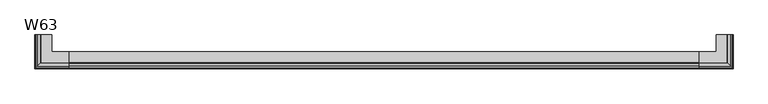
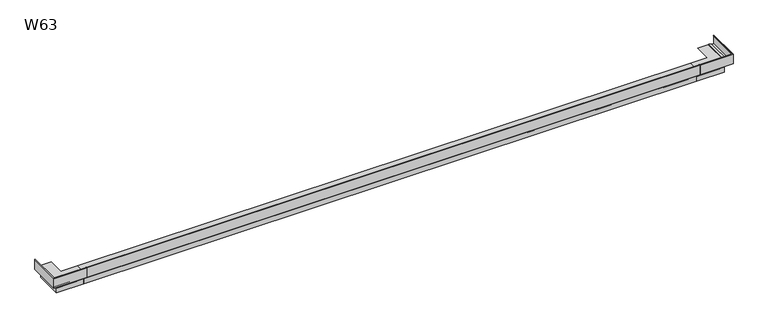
"""IFC4 building model written with IfcOpenShell, lengths in millimetres: proxy geometry, W63 Profil okapowy prosty : W63."""

import ifcopenshell
import ifcopenshell.guid

model = None  # the IFC model being written
_history = None  # IfcOwnerHistory: only IFC2X3 demands one
_inside = {}  # id of a spatial element -> (the spatial element, [elements in it])
_under = {}  # id of a project, library or spatial element -> (it, [spatial elements below it])
_declared = {}  # id of a project -> (the project, [libraries it declares])
_typed = {}  # id of a type object -> (the type object, [elements of that type])
_made_of = {}  # id of a material, layer set ... -> (it, [elements and type objects made of it])


def new_model(schema):
    """Start an empty IFC model of exactly this schema.

    Asked for "IFC4X3", IfcOpenShell would pick the latest addendum, in which some entities
    have other attributes; the version numbers below select the first issue.
    IFC2X3 requires an IfcOwnerHistory on every rooted entity: one is made here for all.
    """
    global model, _history
    if schema == "IFC4X3":
        model = ifcopenshell.file(schema_version=(4, 3, 0, 0))
    else:
        model = ifcopenshell.file(schema=schema)
    _inside.clear()
    _under.clear()
    _declared.clear()
    _typed.clear()
    _made_of.clear()
    _history = None
    if model.schema == "IFC2X3":
        org = make("IfcOrganization", Name="unknown")
        user = make(
            "IfcPersonAndOrganization",
            ThePerson=make("IfcPerson", FamilyName="unknown"),
            TheOrganization=org,
        )
        app = make(
            "IfcApplication",
            ApplicationDeveloper=org,
            Version="unknown",
            ApplicationFullName="unknown",
            ApplicationIdentifier="unknown",
        )
        _history = make(
            "IfcOwnerHistory",
            OwningUser=user,
            OwningApplication=app,
            ChangeAction="ADDED",
            CreationDate=0,
        )
    return model


def make(cls, **values):
    """One entity of the class cls with the attributes given. An attribute that is None is left unset."""
    return model.create_entity(
        cls, **{name: value for name, value in values.items() if value is not None}
    )


def rooted(cls, **values):
    """An entity with a GlobalId (a new one), such as an element, a storey or a relation."""
    return make(cls, GlobalId=ifcopenshell.guid.new(), OwnerHistory=_history, **values)


def si_unit(unit_type, name, prefix=None):
    """IfcSIUnit, for example si_unit("LENGTHUNIT", "METRE", prefix="MILLI")."""
    return make("IfcSIUnit", UnitType=unit_type, Prefix=prefix, Name=name)


def assignment(units):
    """IfcUnitAssignment: the units of a project."""
    return None if units is None else make("IfcUnitAssignment", Units=units)


def point(xyz):
    """IfcCartesianPoint."""
    return None if xyz is None else make("IfcCartesianPoint", Coordinates=xyz)


def direction(xyz):
    """IfcDirection."""
    return None if xyz is None else make("IfcDirection", DirectionRatios=xyz)


def frame(location, z_axis=None, x_axis=None):
    """IfcAxis2Placement3D, a coordinate frame: its origin and axes. An axis left out is left unset."""
    return make(
        "IfcAxis2Placement3D",
        Location=point(location),
        Axis=direction(z_axis),
        RefDirection=direction(x_axis),
    )


def frame_2d(location, x_axis=None):
    """IfcAxis2Placement2D, a coordinate frame in the plane: its origin and x axis."""
    return make(
        "IfcAxis2Placement2D", Location=point(location), RefDirection=direction(x_axis)
    )


def origin():
    """The frame at (0, 0, 0) with its axes left unset."""
    return frame((0.0, 0.0, 0.0))


def place(relative_to, where):
    """IfcLocalPlacement: puts the frame where relative to a parent placement (None: the world)."""
    return make(
        "IfcLocalPlacement", PlacementRelTo=relative_to, RelativePlacement=where
    )


def context(
    kind, dimensions, precision=None, world=None, true_north=None, identifier=None
):
    """IfcGeometricRepresentationContext, for example the 3D "Model" context."""
    return make(
        "IfcGeometricRepresentationContext",
        ContextIdentifier=identifier,
        ContextType=kind,
        CoordinateSpaceDimension=dimensions,
        Precision=precision,
        WorldCoordinateSystem=world,
        TrueNorth=true_north,
    )


def project(units=None, contexts=None):
    """IfcProject with its units and contexts."""
    return rooted(
        "IfcProject",
        Name="project",
        RepresentationContexts=contexts,
        UnitsInContext=assignment(units),
    )


def spatial(cls, under=None, at=None, **own):
    """A site, building, storey or space (cls), placed at a placement, below another one or the project."""
    s = rooted(cls, ObjectPlacement=at, **own)
    if under is not None:
        _under.setdefault(under.id(), (under, []))[1].append(s)
    return s


def polyline(points):
    """IfcPolyline through the points."""
    return make("IfcPolyline", Points=[point(p) for p in points])


def circle_curve(where, radius):
    """IfcCircle in the frame where."""
    return make("IfcCircle", Position=where, Radius=radius)


def ellipse_curve(where, semi_axis1, semi_axis2):
    """IfcEllipse in the frame where."""
    return make(
        "IfcEllipse", Position=where, SemiAxis1=semi_axis1, SemiAxis2=semi_axis2
    )


def trimmed(basis, trim1, trim2, sense, master):
    """IfcTrimmedCurve: the piece of a basis curve between two trims."""
    return make(
        "IfcTrimmedCurve",
        BasisCurve=basis,
        Trim1=trim1,
        Trim2=trim2,
        SenseAgreement=sense,
        MasterRepresentation=master,
    )


def segment(curve, same_sense, transition):
    """IfcCompositeCurveSegment."""
    return make(
        "IfcCompositeCurveSegment",
        Transition=transition,
        SameSense=same_sense,
        ParentCurve=curve,
    )


def composite_curve(segments, self_intersect=None):
    """IfcCompositeCurve: segments joined end to end."""
    return make("IfcCompositeCurve", Segments=segments, SelfIntersect=self_intersect)


def outline(outer, holes=None, kind="AREA"):
    """IfcArbitraryClosedProfileDef: a profile drawn as a closed curve; with holes, ...WithVoids."""
    if holes is None:
        return make("IfcArbitraryClosedProfileDef", ProfileType=kind, OuterCurve=outer)
    return make(
        "IfcArbitraryProfileDefWithVoids",
        ProfileType=kind,
        OuterCurve=outer,
        InnerCurves=holes,
    )


def extrude(swept, where, along, depth):
    """IfcExtrudedAreaSolid: the profile swept, set in the frame where, extruded along a direction by depth."""
    return make(
        "IfcExtrudedAreaSolid",
        SweptArea=swept,
        Position=where,
        ExtrudedDirection=direction(along),
        Depth=depth,
    )


def shape(context_of_items, identifier, shape_type, items):
    """IfcShapeRepresentation: the items that make up one representation, for example the "Body"."""
    return make(
        "IfcShapeRepresentation",
        ContextOfItems=context_of_items,
        RepresentationIdentifier=identifier,
        RepresentationType=shape_type,
        Items=items,
    )


def source(mapping_origin, context_of_items, identifier, shape_type, items):
    """IfcRepresentationMap: a shape defined once, which mapped items show again and again."""
    return make(
        "IfcRepresentationMap",
        MappingOrigin=mapping_origin,
        MappedRepresentation=shape(context_of_items, identifier, shape_type, items),
    )


def transform(
    local_origin,
    x_axis=None,
    y_axis=None,
    z_axis=None,
    scale=None,
    scale2=None,
    scale3=None,
    uniform=True,
):
    """IfcCartesianTransformationOperator3D, or its non-uniform kind. x_axis, y_axis, z_axis: its Axis1, 2, 3."""
    if uniform:
        return make(
            "IfcCartesianTransformationOperator3D",
            Axis1=direction(x_axis),
            Axis2=direction(y_axis),
            LocalOrigin=point(local_origin),
            Scale=scale,
            Axis3=direction(z_axis),
        )
    return make(
        "IfcCartesianTransformationOperator3DnonUniform",
        Axis1=direction(x_axis),
        Axis2=direction(y_axis),
        LocalOrigin=point(local_origin),
        Scale=scale,
        Axis3=direction(z_axis),
        Scale2=scale2,
        Scale3=scale3,
    )


def mapped(mapping_source, mapping_target):
    """IfcMappedItem: shows the shape of a source again, moved by a transform."""
    return make(
        "IfcMappedItem", MappingSource=mapping_source, MappingTarget=mapping_target
    )


def made_of(thing, what):
    """Note that an element or type object is made of a material, layer set ...; save() writes the relation."""
    if what is not None:
        _made_of.setdefault(what.id(), (what, []))[1].append(thing)
    return thing


def element(
    cls,
    number,
    at=None,
    inside=None,
    cuts=None,
    type_object=None,
    material=None,
    context=None,
    identifier="Body",
    shape_type=None,
    held_by="IfcProductDefinitionShape",
    body=None,
    shapes=None,
    **own,
):
    """One element of the class cls, such as IfcWall. Its Tag is "e" and its number.

    at: its placement. inside: the storey or other place that contains it. cuts: it is an
    opening in that element (IfcRelVoidsElement). A single representation is given by context,
    identifier, shape_type and body (its items); several are given by shapes. held_by: the class
    of the entity that holds the representations. save() writes the other relations.
    """
    e = rooted(cls, Tag="e%d" % number, ObjectPlacement=at, **own)
    if body is not None:
        shapes = [shape(context, identifier, shape_type, body)]
    if shapes is not None:
        e.Representation = make(held_by, Representations=shapes)
    if inside is not None:
        _inside.setdefault(inside.id(), (inside, []))[1].append(e)
    if cuts is not None:
        rooted(
            "IfcRelVoidsElement", RelatingBuildingElement=cuts, RelatedOpeningElement=e
        )
    if type_object is not None:
        _typed.setdefault(type_object.id(), (type_object, []))[1].append(e)
    return made_of(e, material)


def aggregate(whole, parts):
    """IfcRelAggregates: a whole, such as a stair, and the parts it consists of."""
    return rooted("IfcRelAggregates", RelatingObject=whole, RelatedObjects=parts)


def save(model, path):
    """Write the relations noted so far, then the file.

    IfcRelAggregates (storeys below a building ...), IfcRelContainedInSpatialStructure (elements
    in a storey), IfcRelDefinesByType, IfcRelAssociatesMaterial and IfcRelDeclares: one each for
    every whole, place, type object, material and project.
    """
    for whole, parts in _under.values():
        aggregate(whole, parts)
    for where, things in _inside.values():
        rooted(
            "IfcRelContainedInSpatialStructure",
            RelatedElements=things,
            RelatingStructure=where,
        )
    for kind, things in _typed.values():
        rooted("IfcRelDefinesByType", RelatedObjects=things, RelatingType=kind)
    for what, things in _made_of.values():
        rooted("IfcRelAssociatesMaterial", RelatedObjects=things, RelatingMaterial=what)
    for by, libraries in _declared.values():
        rooted("IfcRelDeclares", RelatingContext=by, RelatedDefinitions=libraries)
    model.write(path)


def plane_surface(at):
    """IfcPlane: the flat surface through the origin of the frame at, square to its z axis."""
    return make("IfcPlane", Position=at)


def cylinder_surface(at, radius):
    """IfcCylindricalSurface: all points at the distance radius from the z axis of the frame at."""
    return make("IfcCylindricalSurface", Position=at, Radius=radius)


def revolved_surface(curve, axis_point, axis_direction):
    """IfcSurfaceOfRevolution: the curve turned about the line through axis_point along axis_direction."""
    return make(
        "IfcSurfaceOfRevolution",
        SweptCurve=make("IfcArbitraryOpenProfileDef", ProfileType="CURVE", Curve=curve),
        AxisPosition=make("IfcAxis1Placement", Location=point(axis_point), Axis=direction(axis_direction)),
    )


def advanced_brep(points, edges, surfaces, faces):
    """IfcAdvancedBrep: a solid bounded by faces that lie on surfaces and meet in shared edges.

    An edge is (start, end): straight between two places in points (the first is 0);
    or (start, end, curve); or (start, end, curve, False) where it runs against its curve.
    A face is (place in surfaces, loops), or (place, loops, False) where it looks against
    its surface's normal. A loop lists edges by number (the first is 1), with a minus sign
    where the edge is run from its end to its start. The first loop is the outer one.
    """
    corners = [point(p) for p in points]
    vertices = [make("IfcVertexPoint", VertexGeometry=c) for c in corners]
    made = []
    for start, end, *more in edges:
        made.append(
            make(
                "IfcEdgeCurve",
                EdgeStart=vertices[start],
                EdgeEnd=vertices[end],
                EdgeGeometry=more[0] if more else make("IfcPolyline", Points=[corners[start], corners[end]]),
                SameSense=more[1] if len(more) > 1 else True,
            )
        )
    hull = []
    for where, loops, *sense in faces:
        bounds = []
        for j, loop in enumerate(loops):
            ring = [make("IfcOrientedEdge", EdgeElement=made[abs(k) - 1], Orientation=k > 0) for k in loop]
            bounds.append(
                make(
                    "IfcFaceOuterBound" if j == 0 else "IfcFaceBound",
                    Bound=make("IfcEdgeLoop", EdgeList=ring),
                    Orientation=True,
                )
            )
        hull.append(make("IfcAdvancedFace", Bounds=bounds, FaceSurface=surfaces[where], SameSense=sense[0] if sense else True))
    return make("IfcAdvancedBrep", Outer=make("IfcClosedShell", CfsFaces=hull))


def w63_5dd79a54(model_context):
    return source(origin(), model_context, "Body", "SolidModel", [
        advanced_brep(
        [(4926.0, -12.814071, -0.610591), (4926.0, -7.9099076, 0.0), (4926.0, 72.7447545, 0.0), (4926.0, 72.7447545, -1.8), (4926.0, -8.6, -1.8), (4926.0, -8.6, -49.3), (4926.0, 0.0, -49.3), (4926.0, 0.0, -62.7), (4926.0, -8.7, -62.7), (4926.0, -8.7, -96.8), (4926.0, -10.4, -96.8), (4926.0, -10.4, -58.5), (4926.0, -8.2, -58.5), (4926.0, -8.2, -60.9), (4926.0, -1.7, -60.9), (4926.0, -1.7, -51.1), (4926.0, -8.2, -51.1), (4926.0, -8.2, -53.5), (4926.0, -10.4, -53.5), (4926.0, -10.4, -1.9598328), (4926.0, -35.8680749, -8.4014734), (4926.0, -37.3, -8.4014734), (4926.0, -37.3, -9.6220163), (4926.0, -38.5, -10.7671837), (4926.0, -38.5, -8.4014734), (4926.0, -52.5, -8.4014734), (4926.0, -52.5, -18.605576), (4926.0, -54.0, -19.8427552), (4926.0, -54.0, 60.2083042), (4926.0, -51.5, 63.0441043), (4926.0, -51.5, 61.2083042), (4926.0, -52.5, 60.2083042), (4926.0, -52.5, 57.2983042), (4926.0, -49.5, 57.2983042), (4926.0, -49.5, 55.7983042), (4926.0, -52.2, 55.7983042), (4926.0, -52.2, -6.6014734), (4926.0, -36.5, -6.6014734), (5138.814071, 200.0, -0.610591), (5162.5, 200.0, -6.6014734), (5178.2, 200.0, -6.6014734), (5178.2, 200.0, 55.7983042), (5175.5, 200.0, 55.7983042), (5175.5, 200.0, 57.2983042), (5178.5, 200.0, 57.2983042), (5178.5, 200.0, 60.2083042), (5177.5, 200.0, 61.2083042), (5177.5, 200.0, 63.0441043), (5180.0, 200.0, 60.2083042), (5180.0, 200.0, -19.8427552), (5178.5, 200.0, -18.605576), (5178.5, 200.0, -8.4014734), (5164.5, 200.0, -8.4014734), (5164.5, 200.0, -10.7671837), (5163.3, 200.0, -9.6220163), (5163.3, 200.0, -8.4014734), (5161.8680749, 200.0, -8.4014734), (5136.4, 200.0, -1.9598328), (5136.4, 200.0, -53.5), (5134.2, 200.0, -53.5), (5134.2, 200.0, -51.1), (5127.7, 200.0, -51.1), (5127.7, 200.0, -60.9), (5134.2, 200.0, -60.9), (5134.2, 200.0, -58.5), (5136.4, 200.0, -58.5), (5136.4, 200.0, -96.8), (5134.7, 200.0, -96.8), (5134.7, 200.0, -62.7), (5126.0, 200.0, -62.7), (5126.0, 200.0, -49.3), (5134.6, 200.0, -49.3), (5134.6, 200.0, -1.8), (5053.2552455, 200.0, -1.8), (5053.2552455, 200.0, 0.0), (5133.9099076, 200.0, 0.0), (5162.5, -36.5, -6.6014734), (5138.814071, -12.814071, -0.610591), (5178.2, -52.2, -6.6014734), (5178.2, -52.2, 55.7983042), (5175.5, -49.5, 55.7983042), (5175.5, -49.5, 57.2983042), (5178.5, -52.5, 57.2983042), (5178.5, -52.5, 60.2083042), (5177.5, -51.5, 61.2083042), (5177.5, -51.5, 63.0441043), (5180.0, -54.0, 60.2083042), (5180.0, -54.0, -19.8427552), (5178.5, -52.5, -18.605576), (5178.5, -52.5, -8.4014734), (5164.5, -38.5, -8.4014734), (5164.5, -38.5, -10.7671837), (5163.3, -37.3, -9.6220163), (5163.3, -37.3, -8.4014734), (5161.8680749, -35.8680749, -8.4014734), (5136.4, -10.4, -1.9598328), (5136.4, -10.4, -53.5), (5134.2, -8.2, -53.5), (5134.2, -8.2, -51.1), (5127.7, -1.7, -51.1), (5127.7, -1.7, -60.9), (5134.2, -8.2, -60.9), (5134.2, -8.2, -58.5), (5136.4, -10.4, -58.5), (5136.4, -10.4, -96.8), (5134.7, -8.7, -96.8), (5134.7, -8.7, -62.7), (5126.0, 0.0, -62.7), (5126.0, 0.0, -49.3), (5134.6, -8.6, -49.3), (5134.6, -8.6, -1.8), (5053.2552455, 72.7447545, -1.8), (5053.2552455, 72.7447545, 0.0), (5133.9099076, -7.9099076, 0.0)],
        [
            (0, 1, circle_curve(frame((4926.0, -7.9099076, -20.0), z_axis=(-1.0, 0.0, 0.0), x_axis=(0.0, 0.0, 1.0)), 20.0)),
            (1, 2),
            (2, 3),
            (3, 4),
            (4, 5),
            (5, 6),
            (6, 7),
            (7, 8),
            (8, 9),
            (9, 10),
            (10, 11),
            (11, 12),
            (12, 13),
            (13, 14),
            (14, 15),
            (15, 16),
            (16, 17),
            (17, 18),
            (18, 19),
            (19, 20),
            (20, 21),
            (21, 22),
            (22, 23),
            (23, 24),
            (24, 25),
            (25, 26),
            (26, 27),
            (27, 28),
            (28, 29, circle_curve(frame((4926.0, -51.0901385, 60.1628945), z_axis=(-1.0, 0.0, 0.0), x_axis=(0.0, -0.23601815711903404, 0.9717486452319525)), 2.9102158)),
            (29, 30),
            (30, 31, circle_curve(frame((4926.0, -51.5, 60.2083042), z_axis=(1.0, 0.0, 0.0), x_axis=(0.0, -1.0, 0.0)), 1.0)),
            (31, 32),
            (32, 33),
            (33, 34),
            (34, 35),
            (35, 36),
            (36, 37),
            (37, 0),
            (38, 39),
            (39, 40),
            (40, 41),
            (41, 42),
            (42, 43),
            (43, 44),
            (44, 45),
            (45, 46, circle_curve(frame((5177.5, 200.0, 60.2083042), z_axis=(0.0, -1.0, 0.0), x_axis=(1.0, 0.0, 0.0)), 1.0)),
            (46, 47),
            (47, 48, circle_curve(frame((5177.0901385, 200.0, 60.1628945), z_axis=(0.0, 1.0, 0.0), x_axis=(0.23601815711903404, 0.0, 0.9717486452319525)), 2.9102158)),
            (48, 49),
            (49, 50),
            (50, 51),
            (51, 52),
            (52, 53),
            (53, 54),
            (54, 55),
            (55, 56),
            (56, 57),
            (57, 58),
            (58, 59),
            (59, 60),
            (60, 61),
            (61, 62),
            (62, 63),
            (63, 64),
            (64, 65),
            (65, 66),
            (66, 67),
            (67, 68),
            (68, 69),
            (69, 70),
            (70, 71),
            (71, 72),
            (72, 73),
            (73, 74),
            (74, 75),
            (75, 38, circle_curve(frame((5133.9099076, 200.0, -20.0), z_axis=(0.0, 1.0, 0.0), x_axis=(0.0, 0.0, 1.0)), 20.0)),
            (37, 76),
            (76, 77),
            (77, 0),
            (36, 78),
            (78, 40),
            (39, 76),
            (35, 79),
            (79, 78),
            (34, 80),
            (80, 42),
            (41, 79),
            (33, 81),
            (81, 80),
            (32, 82),
            (82, 44),
            (43, 81),
            (31, 83),
            (83, 82),
            (30, 84),
            (84, 83, ellipse_curve(frame((5177.5, -51.5, 60.2083042), z_axis=(0.7071067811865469, 0.707106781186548, 0.0), x_axis=(0.7071067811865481, -0.7071067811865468, 0.0)), 1.4142136, 1.0)),
            (29, 85),
            (85, 84),
            (28, 86),
            (86, 85, ellipse_curve(frame((5177.0901385, -51.0901385, 60.1628945), z_axis=(-0.7071067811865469, -0.707106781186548, 0.0), x_axis=(-0.7071067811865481, 0.7071067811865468, 0.0)), 4.1156667, 2.9102158)),
            (27, 87),
            (87, 86),
            (26, 88),
            (88, 87),
            (25, 89),
            (89, 88),
            (24, 90),
            (90, 52),
            (51, 89),
            (23, 91),
            (91, 90),
            (22, 92),
            (92, 91),
            (21, 93),
            (93, 92),
            (20, 94),
            (94, 56),
            (55, 93),
            (19, 95),
            (95, 94),
            (18, 96),
            (96, 95),
            (17, 97),
            (97, 59),
            (58, 96),
            (16, 98),
            (98, 97),
            (15, 99),
            (99, 61),
            (60, 98),
            (14, 100),
            (100, 99),
            (13, 101),
            (101, 63),
            (62, 100),
            (12, 102),
            (102, 101),
            (11, 103),
            (103, 65),
            (64, 102),
            (10, 104),
            (104, 103),
            (9, 105),
            (105, 67),
            (66, 104),
            (8, 106),
            (106, 105),
            (7, 107),
            (107, 69),
            (68, 106),
            (6, 108),
            (108, 107),
            (5, 109),
            (109, 71),
            (70, 108),
            (4, 110),
            (110, 109),
            (3, 111),
            (111, 73),
            (72, 110),
            (2, 112),
            (112, 111),
            (1, 113),
            (113, 75),
            (74, 112),
            (77, 113, ellipse_curve(frame((5133.9099076, -7.9099076, -20.0), z_axis=(-0.7071067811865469, -0.707106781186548, 0.0), x_axis=(-0.7071067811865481, 0.7071067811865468, 0.0)), 28.2842712, 20.0)),
            (38, 77),
            (83, 45),
            (84, 46),
            (85, 47),
            (86, 48),
            (87, 49),
            (88, 50),
            (91, 53),
            (92, 54),
            (95, 57),
        ],
        [
            plane_surface(frame((4926.0, 0.0, 0.0), z_axis=(-1.0, 0.0, 0.0), x_axis=(0.0, 0.0, 1.0))),
            plane_surface(frame((5126.0, 200.0, 0.0), z_axis=(0.0, 1.0, 0.0), x_axis=(0.0, 0.0, 1.0))),
            plane_surface(frame((4926.0, -12.814071, -0.610591), z_axis=(0.0, -0.24520817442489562, 0.9694704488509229), x_axis=(1.0, 0.0, 0.0))),
            plane_surface(frame((4926.0, -36.5, -6.6014734), z_axis=(0.0, 0.0, 1.0), x_axis=(1.0, 0.0, 0.0))),
            plane_surface(frame((4926.0, -52.2, -6.6014734), z_axis=(0.0, 1.0, 0.0), x_axis=(1.0, 0.0, 0.0))),
            plane_surface(frame((4926.0, -52.2, 55.7983042), z_axis=(0.0, 0.0, -1.0), x_axis=(1.0, 0.0, 0.0))),
            plane_surface(frame((4926.0, -49.5, 55.7983042), z_axis=(0.0, 1.0, 0.0), x_axis=(1.0, 0.0, 0.0))),
            plane_surface(frame((4926.0, -49.5, 57.2983042), z_axis=(0.0, 0.0, 1.0), x_axis=(1.0, 0.0, 0.0))),
            plane_surface(frame((4926.0, -52.5, 57.2983042), z_axis=(0.0, 1.0, 0.0), x_axis=(1.0, 0.0, 0.0))),
            revolved_surface(polyline([(5178.500000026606, -52.5, 60.2083042), (4926.0, -52.5, 60.2083042)]), (4926.0, -51.5, 60.2083042), (1.0, 0.0, 0.0)),
            plane_surface(frame((4926.0, -51.5, 61.2083042), z_axis=(0.0, 1.0, 0.0), x_axis=(1.0, 0.0, 0.0))),
            cylinder_surface(frame((4926.0, -51.0901385, 60.1628945), z_axis=(-1.0, 0.0, 0.0), x_axis=(0.0, -0.23601815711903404, 0.9717486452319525)), 2.9102158),
            plane_surface(frame((4926.0, -54.0, 60.2083042), z_axis=(0.0, -1.0, 0.0), x_axis=(1.0, 0.0, 0.0))),
            plane_surface(frame((4926.0, -54.0, -19.8427552), z_axis=(0.0, 0.6362847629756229, -0.7714542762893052), x_axis=(1.0, 0.0, 0.0))),
            plane_surface(frame((4926.0, -52.5, -18.605576), z_axis=(0.0, 1.0, 0.0), x_axis=(1.0, 0.0, 0.0))),
            plane_surface(frame((4926.0, -52.5, -8.4014734), z_axis=(0.0, 0.0, -1.0), x_axis=(1.0, 0.0, 0.0))),
            plane_surface(frame((4926.0, -38.5, -8.4014734), z_axis=(0.0, -1.0, 0.0), x_axis=(1.0, 0.0, 0.0))),
            plane_surface(frame((4926.0, -38.5, -10.7671837), z_axis=(0.0, 0.6903851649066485, -0.7234419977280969), x_axis=(1.0, 0.0, 0.0))),
            plane_surface(frame((4926.0, -37.3, -9.6220163), z_axis=(0.0, 1.0, -1.8471806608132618e-12), x_axis=(1.0, 0.0, 0.0))),
            plane_surface(frame((4926.0, -37.3, -8.4014734), z_axis=(0.0, 0.0, -1.0), x_axis=(1.0, 0.0, 0.0))),
            plane_surface(frame((4926.0, -35.8680749, -8.4014734), z_axis=(0.0, 0.24520817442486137, -0.9694704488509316), x_axis=(1.0, 0.0, 0.0))),
            plane_surface(frame((4926.0, -10.4, -1.9598328), z_axis=(0.0, -1.0, 0.0), x_axis=(1.0, 0.0, 0.0))),
            plane_surface(frame((4926.0, -10.4, -53.5), z_axis=(0.0, 0.0, -1.0), x_axis=(1.0, 0.0, 0.0))),
            plane_surface(frame((4926.0, -8.2, -53.5), z_axis=(0.0, 1.0, 0.0), x_axis=(1.0, 0.0, 0.0))),
            plane_surface(frame((4926.0, -8.2, -51.1), z_axis=(0.0, 0.0, -1.0), x_axis=(1.0, 0.0, 0.0))),
            plane_surface(frame((4926.0, -1.7, -51.1), z_axis=(0.0, -1.0, 0.0), x_axis=(1.0, 0.0, 0.0))),
            plane_surface(frame((4926.0, -1.7, -60.9), z_axis=(0.0, 0.0, 1.0), x_axis=(1.0, 0.0, 0.0))),
            plane_surface(frame((4926.0, -8.2, -60.9), z_axis=(0.0, 1.0, 0.0), x_axis=(1.0, 0.0, 0.0))),
            plane_surface(frame((4926.0, -8.2, -58.5), z_axis=(0.0, 0.0, 1.0), x_axis=(1.0, 0.0, 0.0))),
            plane_surface(frame((4926.0, -10.4, -58.5), z_axis=(0.0, -1.0, 0.0), x_axis=(1.0, 0.0, 0.0))),
            plane_surface(frame((4926.0, -10.4, -96.8), z_axis=(0.0, 0.0, -1.0), x_axis=(1.0, 0.0, 0.0))),
            plane_surface(frame((4926.0, -8.7, -96.8), z_axis=(0.0, 1.0, 0.0), x_axis=(1.0, 0.0, 0.0))),
            plane_surface(frame((4926.0, -8.7, -62.7), z_axis=(0.0, 0.0, -1.0), x_axis=(1.0, 0.0, 0.0))),
            plane_surface(frame((4926.0, 0.0, -62.7), z_axis=(0.0, 1.0, 0.0), x_axis=(1.0, 0.0, 0.0))),
            plane_surface(frame((4926.0, 0.0, -49.3), z_axis=(0.0, 0.0, 1.0), x_axis=(1.0, 0.0, 0.0))),
            plane_surface(frame((4926.0, -8.6, -49.3), z_axis=(0.0, 1.0, 0.0), x_axis=(1.0, 0.0, 0.0))),
            plane_surface(frame((4926.0, -8.6, -1.8), z_axis=(0.0, 0.0, -1.0), x_axis=(1.0, 0.0, 0.0))),
            plane_surface(frame((4926.0, 72.7447545, -1.8), z_axis=(0.0, 1.0, 0.0), x_axis=(1.0, 0.0, 0.0))),
            plane_surface(frame((4926.0, 72.7447545, 0.0), z_axis=(0.0, 0.0, 1.0), x_axis=(1.0, 0.0, 0.0))),
            cylinder_surface(frame((4926.0, -7.9099076, -20.0), z_axis=(-1.0, 0.0, 0.0), x_axis=(0.0, 0.0, 1.0)), 20.0),
            plane_surface(frame((5138.814071, -12.814071, -0.610591), z_axis=(0.24520817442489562, 0.0, 0.9694704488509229), x_axis=(0.0, 1.0, 0.0))),
            plane_surface(frame((5178.2, -52.2, -6.6014734), z_axis=(-1.0, 0.0, 0.0), x_axis=(0.0, 1.0, 0.0))),
            plane_surface(frame((5175.5, -49.5, 55.7983042), z_axis=(-1.0, 0.0, 0.0), x_axis=(0.0, 1.0, 0.0))),
            plane_surface(frame((5178.5, -52.5, 57.2983042), z_axis=(-1.0, 0.0, 0.0), x_axis=(0.0, 1.0, 0.0))),
            revolved_surface(polyline([(5178.5, 200.0, 60.2083042), (5178.5, -52.50000002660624, 60.2083042)]), (5177.5, 0.0, 60.2083042), (0.0, 1.0, 0.0)),
            plane_surface(frame((5177.5, -51.5, 61.2083042), z_axis=(-1.0, 0.0, 0.0), x_axis=(0.0, 1.0, 0.0))),
            cylinder_surface(frame((5177.0901385, 0.0, 60.1628945), z_axis=(0.0, -1.0, 0.0), x_axis=(0.23601815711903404, 0.0, 0.9717486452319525)), 2.9102158),
            plane_surface(frame((5180.0, -54.0, 60.2083042), z_axis=(1.0, 0.0, 0.0), x_axis=(0.0, 1.0, 0.0))),
            plane_surface(frame((5180.0, -54.0, -19.8427552), z_axis=(-0.6362847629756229, 0.0, -0.7714542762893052), x_axis=(0.0, 1.0, 0.0))),
            plane_surface(frame((5178.5, -52.5, -18.605576), z_axis=(-1.0, 0.0, 0.0), x_axis=(0.0, 1.0, 0.0))),
            plane_surface(frame((5164.5, -38.5, -8.4014734), z_axis=(1.0, 0.0, 0.0), x_axis=(0.0, 1.0, 0.0))),
            plane_surface(frame((5164.5, -38.5, -10.7671837), z_axis=(-0.6903851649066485, 0.0, -0.7234419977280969), x_axis=(0.0, 1.0, 0.0))),
            plane_surface(frame((5163.3, -37.3, -9.6220163), z_axis=(-1.0, 0.0, -1.8471806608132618e-12), x_axis=(0.0, 1.0, 0.0))),
            plane_surface(frame((5161.8680749, -35.8680749, -8.4014734), z_axis=(-0.24520817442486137, 0.0, -0.9694704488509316), x_axis=(0.0, 1.0, 0.0))),
            plane_surface(frame((5136.4, -10.4, -1.9598328), z_axis=(1.0, 0.0, 0.0), x_axis=(0.0, 1.0, 0.0))),
            plane_surface(frame((5134.2, -8.2, -53.5), z_axis=(-1.0, 0.0, 0.0), x_axis=(0.0, 1.0, 0.0))),
            plane_surface(frame((5127.7, -1.7, -51.1), z_axis=(1.0, 0.0, 0.0), x_axis=(0.0, 1.0, 0.0))),
            plane_surface(frame((5134.2, -8.2, -60.9), z_axis=(-1.0, 0.0, 0.0), x_axis=(0.0, 1.0, 0.0))),
            plane_surface(frame((5136.4, -10.4, -58.5), z_axis=(1.0, 0.0, 0.0), x_axis=(0.0, 1.0, 0.0))),
            plane_surface(frame((5134.7, -8.7, -96.8), z_axis=(-1.0, 0.0, 0.0), x_axis=(0.0, 1.0, 0.0))),
            plane_surface(frame((5126.0, 0.0, -62.7), z_axis=(-1.0, 0.0, 0.0), x_axis=(0.0, 1.0, 0.0))),
            plane_surface(frame((5134.6, -8.6, -49.3), z_axis=(-1.0, 0.0, 0.0), x_axis=(0.0, 1.0, 0.0))),
            plane_surface(frame((5053.2552455, 72.7447545, -1.8), z_axis=(-1.0, 0.0, 0.0), x_axis=(0.0, 1.0, 0.0))),
            cylinder_surface(frame((5133.9099076, 0.0, -20.0), z_axis=(0.0, -1.0, 0.0), x_axis=(0.0, 0.0, 1.0)), 20.0),
        ],
        [
            (0, [[1, 2, 3, 4, 5, 6, 7, 8, 9, 10, 11, 12, 13, 14, 15, 16, 17, 18, 19, 20, 21, 22, 23, 24, 25, 26, 27, 28, 29, 30, 31, 32, 33, 34, 35, 36, 37, 38]]),
            (1, [[39, 40, 41, 42, 43, 44, 45, 46, 47, 48, 49, 50, 51, 52, 53, 54, 55, 56, 57, 58, 59, 60, 61, 62, 63, 64, 65, 66, 67, 68, 69, 70, 71, 72, 73, 74, 75, 76]]),
            (2, [[77, 78, 79, -38]]),
            (3, [[80, 81, -40, 82, -77, -37]]),
            (4, [[83, 84, -80, -36]]),
            (5, [[85, 86, -42, 87, -83, -35]]),
            (6, [[88, 89, -85, -34]]),
            (7, [[90, 91, -44, 92, -88, -33]]),
            (8, [[93, 94, -90, -32]]),
            (9, [[95, 96, -93, -31]]),
            (10, [[97, 98, -95, -30]]),
            (11, [[99, 100, -97, -29]]),
            (12, [[101, 102, -99, -28]]),
            (13, [[103, 104, -101, -27]]),
            (14, [[105, 106, -103, -26]]),
            (15, [[107, 108, -52, 109, -105, -25]]),
            (16, [[110, 111, -107, -24]]),
            (17, [[112, 113, -110, -23]]),
            (18, [[114, 115, -112, -22]]),
            (19, [[116, 117, -56, 118, -114, -21]]),
            (20, [[119, 120, -116, -20]]),
            (21, [[121, 122, -119, -19]]),
            (22, [[123, 124, -59, 125, -121, -18]]),
            (23, [[126, 127, -123, -17]]),
            (24, [[128, 129, -61, 130, -126, -16]]),
            (25, [[131, 132, -128, -15]]),
            (26, [[133, 134, -63, 135, -131, -14]]),
            (27, [[136, 137, -133, -13]]),
            (28, [[138, 139, -65, 140, -136, -12]]),
            (29, [[141, 142, -138, -11]]),
            (30, [[143, 144, -67, 145, -141, -10]]),
            (31, [[146, 147, -143, -9]]),
            (32, [[148, 149, -69, 150, -146, -8]]),
            (33, [[151, 152, -148, -7]]),
            (34, [[153, 154, -71, 155, -151, -6]]),
            (35, [[156, 157, -153, -5]]),
            (36, [[158, 159, -73, 160, -156, -4]]),
            (37, [[161, 162, -158, -3]]),
            (38, [[163, 164, -75, 165, -161, -2]]),
            (39, [[-79, 166, -163, -1]]),
            (40, [[-82, -39, 167, -78]]),
            (41, [[-87, -41, -81, -84]]),
            (42, [[-92, -43, -86, -89]]),
            (43, [[168, -45, -91, -94]]),
            (44, [[169, -46, -168, -96]]),
            (45, [[170, -47, -169, -98]]),
            (46, [[171, -48, -170, -100]]),
            (47, [[172, -49, -171, -102]]),
            (48, [[173, -50, -172, -104]]),
            (49, [[-109, -51, -173, -106]]),
            (50, [[174, -53, -108, -111]]),
            (51, [[175, -54, -174, -113]]),
            (52, [[-118, -55, -175, -115]]),
            (53, [[176, -57, -117, -120]]),
            (54, [[-125, -58, -176, -122]]),
            (55, [[-130, -60, -124, -127]]),
            (56, [[-135, -62, -129, -132]]),
            (57, [[-140, -64, -134, -137]]),
            (58, [[-145, -66, -139, -142]]),
            (59, [[-150, -68, -144, -147]]),
            (60, [[-155, -70, -149, -152]]),
            (61, [[-160, -72, -154, -157]]),
            (62, [[-165, -74, -159, -162]]),
            (63, [[-167, -76, -164, -166]]),
        ],
    ),
        advanced_brep(
        [(200.0, -12.814071, -0.610591), (200.0, -36.5, -6.6014734), (200.0, -52.2, -6.6014734), (200.0, -52.2, 55.7983042), (200.0, -49.5, 55.7983042), (200.0, -49.5, 57.2983042), (200.0, -52.5, 57.2983042), (200.0, -52.5, 60.2083042), (200.0, -51.5, 61.2083042), (200.0, -51.5, 63.0441043), (200.0, -54.0, 60.2083042), (200.0, -54.0, -19.8427552), (200.0, -52.5, -18.605576), (200.0, -52.5, -8.4014734), (200.0, -38.5, -8.4014734), (200.0, -38.5, -10.7671837), (200.0, -37.3, -9.6220163), (200.0, -37.3, -8.4014734), (200.0, -35.8680749, -8.4014734), (200.0, -10.4, -1.9598328), (200.0, -10.4, -53.5), (200.0, -8.2, -53.5), (200.0, -8.2, -51.1), (200.0, -1.7, -51.1), (200.0, -1.7, -60.9), (200.0, -8.2, -60.9), (200.0, -8.2, -58.5), (200.0, -10.4, -58.5), (200.0, -10.4, -96.8), (200.0, -8.7, -96.8), (200.0, -8.7, -62.7), (200.0, 0.0, -62.7), (200.0, 0.0, -49.3), (200.0, -8.6, -49.3), (200.0, -8.6, -1.8), (200.0, 72.7447545, -1.8), (200.0, 72.7447545, 0.0), (200.0, -7.9099076, 0.0), (-12.814071, 200.0, -0.610591), (-7.9099076, 200.0, 0.0), (72.7447545, 200.0, 0.0), (72.7447545, 200.0, -1.8), (-8.6, 200.0, -1.8), (-8.6, 200.0, -49.3), (0.0, 200.0, -49.3), (0.0, 200.0, -62.7), (-8.7, 200.0, -62.7), (-8.7, 200.0, -96.8), (-10.4, 200.0, -96.8), (-10.4, 200.0, -58.5), (-8.2, 200.0, -58.5), (-8.2, 200.0, -60.9), (-1.7, 200.0, -60.9), (-1.7, 200.0, -51.1), (-8.2, 200.0, -51.1), (-8.2, 200.0, -53.5), (-10.4, 200.0, -53.5), (-10.4, 200.0, -1.9598328), (-35.8680749, 200.0, -8.4014734), (-37.3, 200.0, -8.4014734), (-37.3, 200.0, -9.6220163), (-38.5, 200.0, -10.7671837), (-38.5, 200.0, -8.4014734), (-52.5, 200.0, -8.4014734), (-52.5, 200.0, -18.605576), (-54.0, 200.0, -19.8427552), (-54.0, 200.0, 60.2083042), (-51.5, 200.0, 63.0441043), (-51.5, 200.0, 61.2083042), (-52.5, 200.0, 60.2083042), (-52.5, 200.0, 57.2983042), (-49.5, 200.0, 57.2983042), (-49.5, 200.0, 55.7983042), (-52.2, 200.0, 55.7983042), (-52.2, 200.0, -6.6014734), (-36.5, 200.0, -6.6014734), (-12.814071, -12.814071, -0.610591), (-36.5, -36.5, -6.6014734), (-52.2, -52.2, -6.6014734), (-52.2, -52.2, 55.7983042), (-49.5, -49.5, 55.7983042), (-49.5, -49.5, 57.2983042), (-52.5, -52.5, 57.2983042), (-52.5, -52.5, 60.2083042), (-51.5, -51.5, 61.2083042), (-51.5, -51.5, 63.0441043), (-54.0, -54.0, 60.2083042), (-54.0, -54.0, -19.8427552), (-52.5, -52.5, -18.605576), (-52.5, -52.5, -8.4014734), (-38.5, -38.5, -8.4014734), (-38.5, -38.5, -10.7671837), (-37.3, -37.3, -9.6220163), (-37.3, -37.3, -8.4014734), (-35.8680749, -35.8680749, -8.4014734), (-10.4, -10.4, -1.9598328), (-10.4, -10.4, -53.5), (-8.2, -8.2, -53.5), (-8.2, -8.2, -51.1), (-1.7, -1.7, -51.1), (-1.7, -1.7, -60.9), (-8.2, -8.2, -60.9), (-8.2, -8.2, -58.5), (-10.4, -10.4, -58.5), (-10.4, -10.4, -96.8), (-8.7, -8.7, -96.8), (-8.7, -8.7, -62.7), (0.0, 0.0, -62.7), (0.0, 0.0, -49.3), (-8.6, -8.6, -49.3), (-8.6, -8.6, -1.8), (72.7447545, 72.7447545, -1.8), (72.7447545, 72.7447545, 0.0), (-7.9099076, -7.9099076, 0.0)],
        [
            (0, 1),
            (1, 2),
            (2, 3),
            (3, 4),
            (4, 5),
            (5, 6),
            (6, 7),
            (7, 8, circle_curve(frame((200.0, -51.5, 60.2083042), z_axis=(-1.0, 0.0, 0.0), x_axis=(0.0, -1.0, 0.0)), 1.0)),
            (8, 9),
            (9, 10, circle_curve(frame((200.0, -51.0901385, 60.1628945), z_axis=(1.0, 0.0, 0.0), x_axis=(0.0, -0.23601815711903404, 0.9717486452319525)), 2.9102158)),
            (10, 11),
            (11, 12),
            (12, 13),
            (13, 14),
            (14, 15),
            (15, 16),
            (16, 17),
            (17, 18),
            (18, 19),
            (19, 20),
            (20, 21),
            (21, 22),
            (22, 23),
            (23, 24),
            (24, 25),
            (25, 26),
            (26, 27),
            (27, 28),
            (28, 29),
            (29, 30),
            (30, 31),
            (31, 32),
            (32, 33),
            (33, 34),
            (34, 35),
            (35, 36),
            (36, 37),
            (37, 0, circle_curve(frame((200.0, -7.9099076, -20.0), z_axis=(1.0, 0.0, 0.0), x_axis=(0.0, 0.0, 1.0)), 20.0)),
            (38, 39, circle_curve(frame((-7.9099076, 200.0, -20.0), z_axis=(0.0, 1.0, 0.0), x_axis=(0.0, 0.0, 1.0)), 20.0)),
            (39, 40),
            (40, 41),
            (41, 42),
            (42, 43),
            (43, 44),
            (44, 45),
            (45, 46),
            (46, 47),
            (47, 48),
            (48, 49),
            (49, 50),
            (50, 51),
            (51, 52),
            (52, 53),
            (53, 54),
            (54, 55),
            (55, 56),
            (56, 57),
            (57, 58),
            (58, 59),
            (59, 60),
            (60, 61),
            (61, 62),
            (62, 63),
            (63, 64),
            (64, 65),
            (65, 66),
            (66, 67, circle_curve(frame((-51.0901385, 200.0, 60.1628945), z_axis=(0.0, 1.0, 0.0), x_axis=(-0.23601815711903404, 0.0, 0.9717486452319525)), 2.9102158)),
            (67, 68),
            (68, 69, circle_curve(frame((-51.5, 200.0, 60.2083042), z_axis=(0.0, -1.0, 0.0), x_axis=(-1.0, 0.0, 0.0)), 1.0)),
            (69, 70),
            (70, 71),
            (71, 72),
            (72, 73),
            (73, 74),
            (74, 75),
            (75, 38),
            (0, 76),
            (76, 77),
            (77, 1),
            (77, 75),
            (74, 78),
            (78, 2),
            (78, 79),
            (79, 3),
            (79, 73),
            (72, 80),
            (80, 4),
            (80, 81),
            (81, 5),
            (81, 71),
            (70, 82),
            (82, 6),
            (82, 83),
            (83, 7),
            (83, 84, ellipse_curve(frame((-51.5, -51.5, 60.2083042), z_axis=(-0.7071067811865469, 0.707106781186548, 0.0), x_axis=(-0.7071067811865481, -0.7071067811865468, 0.0)), 1.4142136, 1.0)),
            (84, 8),
            (84, 85),
            (85, 9),
            (85, 86, ellipse_curve(frame((-51.0901385, -51.0901385, 60.1628945), z_axis=(0.7071067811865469, -0.707106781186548, 0.0), x_axis=(0.7071067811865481, 0.7071067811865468, 0.0)), 4.1156667, 2.9102158)),
            (86, 10),
            (86, 87),
            (87, 11),
            (87, 88),
            (88, 12),
            (88, 89),
            (89, 13),
            (89, 63),
            (62, 90),
            (90, 14),
            (90, 91),
            (91, 15),
            (91, 92),
            (92, 16),
            (92, 93),
            (93, 17),
            (93, 59),
            (58, 94),
            (94, 18),
            (94, 95),
            (95, 19),
            (95, 96),
            (96, 20),
            (96, 56),
            (55, 97),
            (97, 21),
            (97, 98),
            (98, 22),
            (98, 54),
            (53, 99),
            (99, 23),
            (99, 100),
            (100, 24),
            (100, 52),
            (51, 101),
            (101, 25),
            (101, 102),
            (102, 26),
            (102, 50),
            (49, 103),
            (103, 27),
            (103, 104),
            (104, 28),
            (104, 48),
            (47, 105),
            (105, 29),
            (105, 106),
            (106, 30),
            (106, 46),
            (45, 107),
            (107, 31),
            (107, 108),
            (108, 32),
            (108, 44),
            (43, 109),
            (109, 33),
            (109, 110),
            (110, 34),
            (110, 42),
            (41, 111),
            (111, 35),
            (111, 112),
            (112, 36),
            (112, 40),
            (39, 113),
            (113, 37),
            (113, 76, ellipse_curve(frame((-7.9099076, -7.9099076, -20.0), z_axis=(0.7071067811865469, -0.707106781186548, 0.0), x_axis=(0.7071067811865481, 0.7071067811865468, 0.0)), 28.2842712, 20.0)),
            (76, 38),
            (69, 83),
            (68, 84),
            (67, 85),
            (66, 86),
            (65, 87),
            (64, 88),
            (61, 91),
            (60, 92),
            (57, 95),
        ],
        [
            plane_surface(frame((200.0, 0.0, 0.0), z_axis=(1.0, 0.0, 0.0), x_axis=(0.0, 0.0, 1.0))),
            plane_surface(frame((0.0, 200.0, 0.0), z_axis=(0.0, 1.0, 0.0), x_axis=(0.0, 0.0, 1.0))),
            plane_surface(frame((200.0, -12.814071, -0.610591), z_axis=(0.0, -0.24520817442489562, 0.9694704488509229), x_axis=(-1.0, 0.0, 0.0))),
            plane_surface(frame((200.0, -36.5, -6.6014734), z_axis=(0.0, 0.0, 1.0), x_axis=(-1.0, 0.0, 0.0))),
            plane_surface(frame((200.0, -52.2, -6.6014734), z_axis=(0.0, 1.0, 0.0), x_axis=(-1.0, 0.0, 0.0))),
            plane_surface(frame((200.0, -52.2, 55.7983042), z_axis=(0.0, 0.0, -1.0), x_axis=(-1.0, 0.0, 0.0))),
            plane_surface(frame((200.0, -49.5, 55.7983042), z_axis=(0.0, 1.0, 0.0), x_axis=(-1.0, 0.0, 0.0))),
            plane_surface(frame((200.0, -49.5, 57.2983042), z_axis=(0.0, 0.0, 1.0), x_axis=(-1.0, 0.0, 0.0))),
            plane_surface(frame((200.0, -52.5, 57.2983042), z_axis=(0.0, 1.0, 0.0), x_axis=(-1.0, 0.0, 0.0))),
            revolved_surface(polyline([(-52.500000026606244, -52.5, 60.2083042), (200.0, -52.5, 60.2083042)]), (200.0, -51.5, 60.2083042), (-1.0, 0.0, 0.0)),
            plane_surface(frame((200.0, -51.5, 61.2083042), z_axis=(0.0, 1.0, 0.0), x_axis=(-1.0, 0.0, 0.0))),
            cylinder_surface(frame((200.0, -51.0901385, 60.1628945), z_axis=(1.0, 0.0, 0.0), x_axis=(0.0, -0.23601815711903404, 0.9717486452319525)), 2.9102158),
            plane_surface(frame((200.0, -54.0, 60.2083042), z_axis=(0.0, -1.0, 0.0), x_axis=(-1.0, 0.0, 0.0))),
            plane_surface(frame((200.0, -54.0, -19.8427552), z_axis=(0.0, 0.6362847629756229, -0.7714542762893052), x_axis=(-1.0, 0.0, 0.0))),
            plane_surface(frame((200.0, -52.5, -18.605576), z_axis=(0.0, 1.0, 0.0), x_axis=(-1.0, 0.0, 0.0))),
            plane_surface(frame((200.0, -52.5, -8.4014734), z_axis=(0.0, 0.0, -1.0), x_axis=(-1.0, 0.0, 0.0))),
            plane_surface(frame((200.0, -38.5, -8.4014734), z_axis=(0.0, -1.0, 0.0), x_axis=(-1.0, 0.0, 0.0))),
            plane_surface(frame((200.0, -38.5, -10.7671837), z_axis=(0.0, 0.6903851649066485, -0.7234419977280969), x_axis=(-1.0, 0.0, 0.0))),
            plane_surface(frame((200.0, -37.3, -9.6220163), z_axis=(0.0, 1.0, -1.8471806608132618e-12), x_axis=(-1.0, 0.0, 0.0))),
            plane_surface(frame((200.0, -37.3, -8.4014734), z_axis=(0.0, 0.0, -1.0), x_axis=(-1.0, 0.0, 0.0))),
            plane_surface(frame((200.0, -35.8680749, -8.4014734), z_axis=(0.0, 0.24520817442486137, -0.9694704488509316), x_axis=(-1.0, 0.0, 0.0))),
            plane_surface(frame((200.0, -10.4, -1.9598328), z_axis=(0.0, -1.0, 0.0), x_axis=(-1.0, 0.0, 0.0))),
            plane_surface(frame((200.0, -10.4, -53.5), z_axis=(0.0, 0.0, -1.0), x_axis=(-1.0, 0.0, 0.0))),
            plane_surface(frame((200.0, -8.2, -53.5), z_axis=(0.0, 1.0, 0.0), x_axis=(-1.0, 0.0, 0.0))),
            plane_surface(frame((200.0, -8.2, -51.1), z_axis=(0.0, 0.0, -1.0), x_axis=(-1.0, 0.0, 0.0))),
            plane_surface(frame((200.0, -1.7, -51.1), z_axis=(0.0, -1.0, 0.0), x_axis=(-1.0, 0.0, 0.0))),
            plane_surface(frame((200.0, -1.7, -60.9), z_axis=(0.0, 0.0, 1.0), x_axis=(-1.0, 0.0, 0.0))),
            plane_surface(frame((200.0, -8.2, -60.9), z_axis=(0.0, 1.0, 0.0), x_axis=(-1.0, 0.0, 0.0))),
            plane_surface(frame((200.0, -8.2, -58.5), z_axis=(0.0, 0.0, 1.0), x_axis=(-1.0, 0.0, 0.0))),
            plane_surface(frame((200.0, -10.4, -58.5), z_axis=(0.0, -1.0, 0.0), x_axis=(-1.0, 0.0, 0.0))),
            plane_surface(frame((200.0, -10.4, -96.8), z_axis=(0.0, 0.0, -1.0), x_axis=(-1.0, 0.0, 0.0))),
            plane_surface(frame((200.0, -8.7, -96.8), z_axis=(0.0, 1.0, 0.0), x_axis=(-1.0, 0.0, 0.0))),
            plane_surface(frame((200.0, -8.7, -62.7), z_axis=(0.0, 0.0, -1.0), x_axis=(-1.0, 0.0, 0.0))),
            plane_surface(frame((200.0, 0.0, -62.7), z_axis=(0.0, 1.0, 0.0), x_axis=(-1.0, 0.0, 0.0))),
            plane_surface(frame((200.0, 0.0, -49.3), z_axis=(0.0, 0.0, 1.0), x_axis=(-1.0, 0.0, 0.0))),
            plane_surface(frame((200.0, -8.6, -49.3), z_axis=(0.0, 1.0, 0.0), x_axis=(-1.0, 0.0, 0.0))),
            plane_surface(frame((200.0, -8.6, -1.8), z_axis=(0.0, 0.0, -1.0), x_axis=(-1.0, 0.0, 0.0))),
            plane_surface(frame((200.0, 72.7447545, -1.8), z_axis=(0.0, 1.0, 0.0), x_axis=(-1.0, 0.0, 0.0))),
            plane_surface(frame((200.0, 72.7447545, 0.0), z_axis=(0.0, 0.0, 1.0), x_axis=(-1.0, 0.0, 0.0))),
            cylinder_surface(frame((200.0, -7.9099076, -20.0), z_axis=(1.0, 0.0, 0.0), x_axis=(0.0, 0.0, 1.0)), 20.0),
            plane_surface(frame((-12.814071, -12.814071, -0.610591), z_axis=(-0.24520817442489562, 0.0, 0.9694704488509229), x_axis=(0.0, 1.0, 0.0))),
            plane_surface(frame((-52.2, -52.2, -6.6014734), z_axis=(1.0, 0.0, 0.0), x_axis=(0.0, 1.0, 0.0))),
            plane_surface(frame((-49.5, -49.5, 55.7983042), z_axis=(1.0, 0.0, 0.0), x_axis=(0.0, 1.0, 0.0))),
            plane_surface(frame((-52.5, -52.5, 57.2983042), z_axis=(1.0, 0.0, 0.0), x_axis=(0.0, 1.0, 0.0))),
            revolved_surface(polyline([(-52.5, 200.0, 60.2083042), (-52.5, -52.50000002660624, 60.2083042)]), (-51.5, 0.0, 60.2083042), (0.0, 1.0, 0.0)),
            plane_surface(frame((-51.5, -51.5, 61.2083042), z_axis=(1.0, 0.0, 0.0), x_axis=(0.0, 1.0, 0.0))),
            cylinder_surface(frame((-51.0901385, 0.0, 60.1628945), z_axis=(0.0, -1.0, 0.0), x_axis=(-0.23601815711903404, 0.0, 0.9717486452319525)), 2.9102158),
            plane_surface(frame((-54.0, -54.0, 60.2083042), z_axis=(-1.0, 0.0, 0.0), x_axis=(0.0, 1.0, 0.0))),
            plane_surface(frame((-54.0, -54.0, -19.8427552), z_axis=(0.6362847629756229, 0.0, -0.7714542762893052), x_axis=(0.0, 1.0, 0.0))),
            plane_surface(frame((-52.5, -52.5, -18.605576), z_axis=(1.0, 0.0, 0.0), x_axis=(0.0, 1.0, 0.0))),
            plane_surface(frame((-38.5, -38.5, -8.4014734), z_axis=(-1.0, 0.0, 0.0), x_axis=(0.0, 1.0, 0.0))),
            plane_surface(frame((-38.5, -38.5, -10.7671837), z_axis=(0.6903851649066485, 0.0, -0.7234419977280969), x_axis=(0.0, 1.0, 0.0))),
            plane_surface(frame((-37.3, -37.3, -9.6220163), z_axis=(1.0, 0.0, -1.8471806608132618e-12), x_axis=(0.0, 1.0, 0.0))),
            plane_surface(frame((-35.8680749, -35.8680749, -8.4014734), z_axis=(0.24520817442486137, 0.0, -0.9694704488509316), x_axis=(0.0, 1.0, 0.0))),
            plane_surface(frame((-10.4, -10.4, -1.9598328), z_axis=(-1.0, 0.0, 0.0), x_axis=(0.0, 1.0, 0.0))),
            plane_surface(frame((-8.2, -8.2, -53.5), z_axis=(1.0, 0.0, 0.0), x_axis=(0.0, 1.0, 0.0))),
            plane_surface(frame((-1.7, -1.7, -51.1), z_axis=(-1.0, 0.0, 0.0), x_axis=(0.0, 1.0, 0.0))),
            plane_surface(frame((-8.2, -8.2, -60.9), z_axis=(1.0, 0.0, 0.0), x_axis=(0.0, 1.0, 0.0))),
            plane_surface(frame((-10.4, -10.4, -58.5), z_axis=(-1.0, 0.0, 0.0), x_axis=(0.0, 1.0, 0.0))),
            plane_surface(frame((-8.7, -8.7, -96.8), z_axis=(1.0, 0.0, 0.0), x_axis=(0.0, 1.0, 0.0))),
            plane_surface(frame((0.0, 0.0, -62.7), z_axis=(1.0, 0.0, 0.0), x_axis=(0.0, 1.0, 0.0))),
            plane_surface(frame((-8.6, -8.6, -49.3), z_axis=(1.0, 0.0, 0.0), x_axis=(0.0, 1.0, 0.0))),
            plane_surface(frame((72.7447545, 72.7447545, -1.8), z_axis=(1.0, 0.0, 0.0), x_axis=(0.0, 1.0, 0.0))),
            cylinder_surface(frame((-7.9099076, 0.0, -20.0), z_axis=(0.0, -1.0, 0.0), x_axis=(0.0, 0.0, 1.0)), 20.0),
        ],
        [
            (0, [[1, 2, 3, 4, 5, 6, 7, 8, 9, 10, 11, 12, 13, 14, 15, 16, 17, 18, 19, 20, 21, 22, 23, 24, 25, 26, 27, 28, 29, 30, 31, 32, 33, 34, 35, 36, 37, 38]]),
            (1, [[39, 40, 41, 42, 43, 44, 45, 46, 47, 48, 49, 50, 51, 52, 53, 54, 55, 56, 57, 58, 59, 60, 61, 62, 63, 64, 65, 66, 67, 68, 69, 70, 71, 72, 73, 74, 75, 76]]),
            (2, [[-1, 77, 78, 79]]),
            (3, [[-2, -79, 80, -75, 81, 82]]),
            (4, [[-3, -82, 83, 84]]),
            (5, [[-4, -84, 85, -73, 86, 87]]),
            (6, [[-5, -87, 88, 89]]),
            (7, [[-6, -89, 90, -71, 91, 92]]),
            (8, [[-7, -92, 93, 94]]),
            (9, [[-8, -94, 95, 96]]),
            (10, [[-9, -96, 97, 98]]),
            (11, [[-10, -98, 99, 100]]),
            (12, [[-11, -100, 101, 102]]),
            (13, [[-12, -102, 103, 104]]),
            (14, [[-13, -104, 105, 106]]),
            (15, [[-14, -106, 107, -63, 108, 109]]),
            (16, [[-15, -109, 110, 111]]),
            (17, [[-16, -111, 112, 113]]),
            (18, [[-17, -113, 114, 115]]),
            (19, [[-18, -115, 116, -59, 117, 118]]),
            (20, [[-19, -118, 119, 120]]),
            (21, [[-20, -120, 121, 122]]),
            (22, [[-21, -122, 123, -56, 124, 125]]),
            (23, [[-22, -125, 126, 127]]),
            (24, [[-23, -127, 128, -54, 129, 130]]),
            (25, [[-24, -130, 131, 132]]),
            (26, [[-25, -132, 133, -52, 134, 135]]),
            (27, [[-26, -135, 136, 137]]),
            (28, [[-27, -137, 138, -50, 139, 140]]),
            (29, [[-28, -140, 141, 142]]),
            (30, [[-29, -142, 143, -48, 144, 145]]),
            (31, [[-30, -145, 146, 147]]),
            (32, [[-31, -147, 148, -46, 149, 150]]),
            (33, [[-32, -150, 151, 152]]),
            (34, [[-33, -152, 153, -44, 154, 155]]),
            (35, [[-34, -155, 156, 157]]),
            (36, [[-35, -157, 158, -42, 159, 160]]),
            (37, [[-36, -160, 161, 162]]),
            (38, [[-37, -162, 163, -40, 164, 165]]),
            (39, [[-38, -165, 166, -77]]),
            (40, [[-78, 167, -76, -80]]),
            (41, [[-83, -81, -74, -85]]),
            (42, [[-88, -86, -72, -90]]),
            (43, [[-93, -91, -70, 168]]),
            (44, [[-95, -168, -69, 169]]),
            (45, [[-97, -169, -68, 170]]),
            (46, [[-99, -170, -67, 171]]),
            (47, [[-101, -171, -66, 172]]),
            (48, [[-103, -172, -65, 173]]),
            (49, [[-105, -173, -64, -107]]),
            (50, [[-110, -108, -62, 174]]),
            (51, [[-112, -174, -61, 175]]),
            (52, [[-114, -175, -60, -116]]),
            (53, [[-119, -117, -58, 176]]),
            (54, [[-121, -176, -57, -123]]),
            (55, [[-126, -124, -55, -128]]),
            (56, [[-131, -129, -53, -133]]),
            (57, [[-136, -134, -51, -138]]),
            (58, [[-141, -139, -49, -143]]),
            (59, [[-146, -144, -47, -148]]),
            (60, [[-151, -149, -45, -153]]),
            (61, [[-156, -154, -43, -158]]),
            (62, [[-161, -159, -41, -163]]),
            (63, [[-166, -164, -39, -167]]),
        ],
    ),
        extrude(outline(composite_curve([segment(trimmed(circle_curve(frame_2d((-7.9099076, -20.0)), 20.0), [point((-12.814071, -0.610591))], [point((-7.9099076, 0.0))], False, "CARTESIAN"), True, "CONTINUOUS"), segment(polyline([(-7.9099076, 0.0), (72.7447545, 0.0), (72.7447545, -1.8), (-8.6, -1.8), (-8.6, -49.3), (0.0, -49.3), (0.0, -62.7), (-8.7, -62.7), (-8.7, -96.8), (-10.4, -96.8), (-10.4, -58.5), (-8.2, -58.5), (-8.2, -60.9), (-1.7, -60.9), (-1.7, -51.1), (-8.2, -51.1), (-8.2, -53.5), (-10.4, -53.5), (-10.4, -1.9598328), (-35.8680749, -8.4014734), (-37.3, -8.4014734), (-37.3, -9.6220163), (-38.5, -10.7671837), (-38.5, -8.4014734), (-52.5, -8.4014734), (-52.5, -18.605576), (-54.0, -19.8427552), (-54.0, 60.2083042)]), True, "CONTINUOUS"), segment(trimmed(circle_curve(frame_2d((-51.0901385, 60.1628945)), 2.9102158), [point((-54.0, 60.2083042))], [point((-51.5, 63.0441043))], False, "CARTESIAN"), True, "CONTINUOUS"), segment(polyline([(-51.5, 63.0441043), (-51.5, 61.2083042)]), True, "CONTINUOUS"), segment(trimmed(circle_curve(frame_2d((-51.5, 60.2083042)), 1.0), [point((-51.5, 61.2083042))], [point((-52.5, 60.2083042))], True, "CARTESIAN"), True, "CONTINUOUS"), segment(polyline([(-52.5, 60.2083042), (-52.5, 57.2983042), (-49.5, 57.2983042), (-49.5, 55.7983042), (-52.2, 55.7983042), (-52.2, -6.6014734), (-36.5, -6.6014734), (-12.814071, -0.610591)]), True, "CONTINUOUS")], self_intersect=False)), frame((200.0, 0.0, 0.0), z_axis=(1.0, 0.0, 0.0), x_axis=(0.0, 1.0, 0.0)), (0.0, 0.0, 1.0), 4726.0),
    ])


if __name__ == "__main__":
    model = new_model("IFC4")
    model_context = context("Model", 3, world=origin())
    ifc_project = project(units=[si_unit("LENGTHUNIT", "METRE", prefix="MILLI")], contexts=[model_context])
    site = spatial("IfcSite", under=ifc_project)
    building = spatial("IfcBuilding", under=site)
    placement = place(None, origin())
    w63_shape = w63_5dd79a54(model_context)
    element("IfcBuildingElementProxy", 1, Name="W63 Profil okapowy prosty : W63", ObjectType="W63 Profil okapowy prosty : W63", at=placement, inside=building, context=model_context, shape_type="MappedRepresentation", body=[
        mapped(w63_shape, transform((0.0, 0.0, 0.0), x_axis=(1.0, 0.0, 0.0), y_axis=(0.0, 1.0, 0.0), z_axis=(0.0, 0.0, 1.0))),
    ])
    save(model, "model.ifc")
